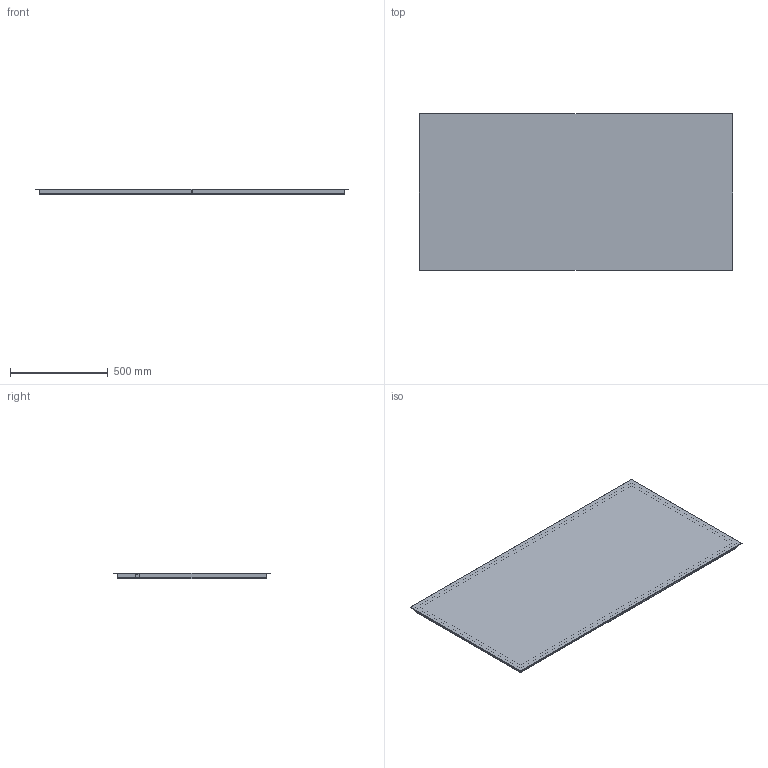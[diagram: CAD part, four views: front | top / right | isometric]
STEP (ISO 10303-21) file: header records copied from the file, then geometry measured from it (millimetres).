
FILE_DESCRIPTION (( 'STEP AP203' ), '1' );
FILE_NAME ('SPIEGEL MODEL 12 160CM.STEP', '2016-07-14T09:44:28', ( '' ), ( '' ), 'SwSTEP 2.0', 'SolidWorks 2016', '' );
FILE_SCHEMA (( 'CONFIG_CONTROL_DESIGN' ));
Length unit declared in the file: millimetre
Products named in the file (1): SPIEGEL MODEL 12 160CM
Bounding box: 1600 x 800 x 30 mm (x, y, z)
Volume: 6886400.7 mm3; surface area: 2816983.4 mm2
Topology: 1 solids, 1 shells, 53 faces, 114 edges, 68 vertices
Faces by surface type: plane 47, cylinder 6
Entity records: 1469 total; most frequent: CARTESIAN_POINT 236, DIRECTION 234, ORIENTED_EDGE 228, EDGE_CURVE 114, LINE 102, VECTOR 102, VERTEX_POINT 68, AXIS2_PLACEMENT_3D 66
